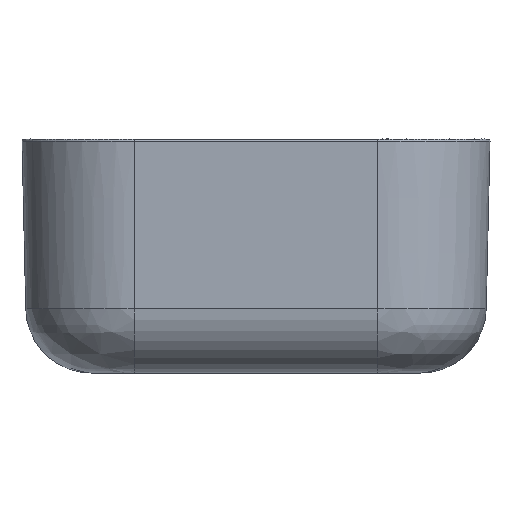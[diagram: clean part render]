
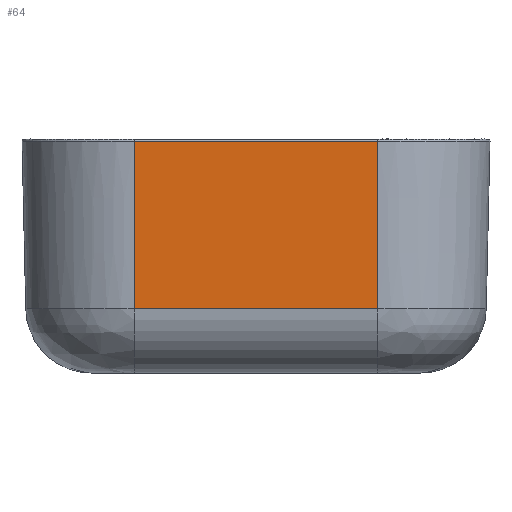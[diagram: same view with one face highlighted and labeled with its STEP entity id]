
A CAD part, left-side view. The second image highlights one B-rep face of the part: STEP entity #64.
In plain terms, the highlighted planar face has unit normal (-1, 0, -0.022).
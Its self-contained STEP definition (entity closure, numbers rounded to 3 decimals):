
#64=ADVANCED_FACE('',(#184),#1736,.T.);
#184=FACE_OUTER_BOUND('',#304,.T.);
#304=EDGE_LOOP('',(#522,#523,#524,#525));
#522=ORIENTED_EDGE('',*,*,#1025,.T.);
#523=ORIENTED_EDGE('',*,*,#1024,.T.);
#524=ORIENTED_EDGE('',*,*,#1022,.F.);
#525=ORIENTED_EDGE('',*,*,#1023,.F.);
#1022=EDGE_CURVE('',#1566,#1574,#1505,.T.);
#1023=EDGE_CURVE('',#1563,#1566,#1291,.T.);
#1024=EDGE_CURVE('',#1571,#1574,#1292,.T.);
#1025=EDGE_CURVE('',#1563,#1571,#1293,.T.);
#1291=B_SPLINE_CURVE_WITH_KNOTS('',1,(#6674,#6675),.UNSPECIFIED.,.F.,.F.,
(2,2),(2.047,90.897),.UNSPECIFIED.);
#1292=B_SPLINE_CURVE_WITH_KNOTS('',1,(#6676,#6677),.UNSPECIFIED.,.F.,.F.,
(2,2),(2.047,90.897),.UNSPECIFIED.);
#1293=B_SPLINE_CURVE_WITH_KNOTS('',1,(#6678,#6679),.UNSPECIFIED.,.F.,.F.,
(2,2),(0.,130.),.UNSPECIFIED.);
#1505=(
BOUNDED_CURVE()
B_SPLINE_CURVE(1,(#6672,#6673),.UNSPECIFIED.,.F.,.F.)
B_SPLINE_CURVE_WITH_KNOTS((2,2),(0.,130.),.UNSPECIFIED.)
CURVE()
GEOMETRIC_REPRESENTATION_ITEM()
RATIONAL_B_SPLINE_CURVE((1.,1.))
REPRESENTATION_ITEM('')
);
#1563=VERTEX_POINT('',#6196);
#1566=VERTEX_POINT('',#6199);
#1571=VERTEX_POINT('',#6204);
#1574=VERTEX_POINT('',#6207);
#1736=PLANE('',#1930);
#1930=AXIS2_PLACEMENT_3D('',#4812,#2017,$);
#2017=DIRECTION('',(-1.,0.,-0.022));
#4812=CARTESIAN_POINT('',(19374.921,1369.826,-5611.122));
#6196=CARTESIAN_POINT('',(19374.921,1369.826,-5611.122));
#6199=CARTESIAN_POINT('',(19376.912,1369.826,-5700.37));
#6204=CARTESIAN_POINT('',(19374.921,1499.826,-5611.122));
#6207=CARTESIAN_POINT('',(19376.912,1499.826,-5700.37));
#6672=CARTESIAN_POINT('',(19376.912,1369.826,-5700.37));
#6673=CARTESIAN_POINT('',(19376.912,1499.826,-5700.37));
#6674=CARTESIAN_POINT('',(19374.921,1369.826,-5611.122));
#6675=CARTESIAN_POINT('',(19376.912,1369.826,-5700.37));
#6676=CARTESIAN_POINT('',(19374.921,1499.826,-5611.122));
#6677=CARTESIAN_POINT('',(19376.912,1499.826,-5700.37));
#6678=CARTESIAN_POINT('',(19374.921,1369.826,-5611.122));
#6679=CARTESIAN_POINT('',(19374.921,1499.826,-5611.122));
